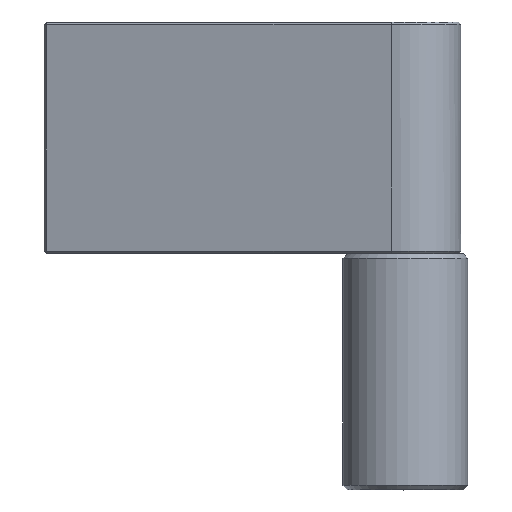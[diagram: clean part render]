
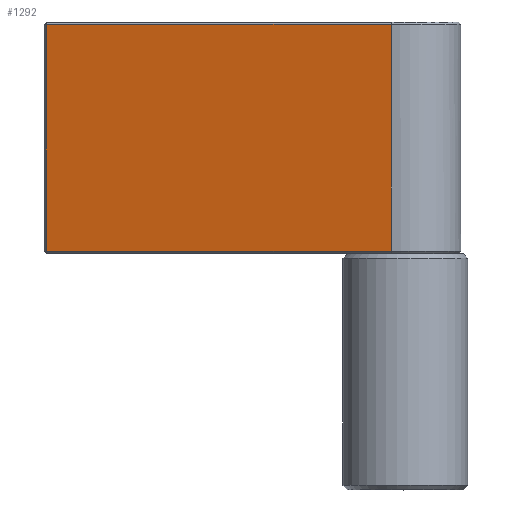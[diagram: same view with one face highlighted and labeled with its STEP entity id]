
A CAD part, top view. The second image highlights one B-rep face of the part: STEP entity #1292.
In plain terms, the highlighted planar face has unit normal (-0.253, 0, 0.967) as drawn and (-0.253, 0.967, 0) by its records, which use the part's own axes.
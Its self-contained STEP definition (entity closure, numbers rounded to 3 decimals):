
#27 = VERTEX_POINT ( 'NONE', #605 ) ;
#43 = DIRECTION ( 'NONE',  ( 0., 0., -1. ) ) ;
#44 = VECTOR ( 'NONE', #531, 1000. ) ;
#94 = LINE ( 'NONE', #608, #44 ) ;
#154 = CARTESIAN_POINT ( 'NONE',  ( -3.037, 11.609, 50. ) ) ;
#214 = VERTEX_POINT ( 'NONE', #838 ) ;
#283 = EDGE_CURVE ( 'NONE', #370, #1251, #1838, .T. ) ;
#370 = VERTEX_POINT ( 'NONE', #1420 ) ;
#444 = DIRECTION ( 'NONE',  ( -0.967, -0.253, 0. ) ) ;
#531 = DIRECTION ( 'NONE',  ( 0., 0., 1. ) ) ;
#535 = VECTOR ( 'NONE', #43, 1000. ) ;
#605 = CARTESIAN_POINT ( 'NONE',  ( -77.516, -7.873, 0.5 ) ) ;
#608 = CARTESIAN_POINT ( 'NONE',  ( -77.516, -7.873, 50. ) ) ;
#811 = DIRECTION ( 'NONE',  ( 0.967, 0.253, 0. ) ) ;
#838 = CARTESIAN_POINT ( 'NONE',  ( -77.516, -7.873, 49.5 ) ) ;
#915 = FACE_OUTER_BOUND ( 'NONE', #1124, .T. ) ;
#940 = EDGE_CURVE ( 'NONE', #27, #214, #94, .T. ) ;
#1033 = EDGE_CURVE ( 'NONE', #214, #370, #2064, .T. ) ;
#1124 = EDGE_LOOP ( 'NONE', ( #1680, #1790, #1821, #1886 ) ) ;
#1251 = VERTEX_POINT ( 'NONE', #1769 ) ;
#1292 = ADVANCED_FACE ( 'NONE', ( #915 ), #1978, .F. ) ;
#1420 = CARTESIAN_POINT ( 'NONE',  ( -3.037, 11.609, 49.5 ) ) ;
#1680 = ORIENTED_EDGE ( 'NONE', *, *, #940, .T. ) ;
#1769 = CARTESIAN_POINT ( 'NONE',  ( -3.037, 11.609, 0.5 ) ) ;
#1790 = ORIENTED_EDGE ( 'NONE', *, *, #1033, .T. ) ;
#1821 = ORIENTED_EDGE ( 'NONE', *, *, #283, .T. ) ;
#1838 = LINE ( 'NONE', #154, #535 ) ;
#1853 = CARTESIAN_POINT ( 'NONE',  ( -78., -8., 0.5 ) ) ;
#1871 = AXIS2_PLACEMENT_3D ( 'NONE', #1927, #1984, #1999 ) ;
#1886 = ORIENTED_EDGE ( 'NONE', *, *, #1962, .T. ) ;
#1927 = CARTESIAN_POINT ( 'NONE',  ( -78., -8., 50. ) ) ;
#1962 = EDGE_CURVE ( 'NONE', #1251, #27, #2031, .T. ) ;
#1978 = PLANE ( 'NONE',  #1871 ) ;
#1980 = VECTOR ( 'NONE', #811, 1000. ) ;
#1984 = DIRECTION ( 'NONE',  ( 0.253, -0.967, 0. ) ) ;
#1988 = VECTOR ( 'NONE', #444, 1000. ) ;
#1993 = CARTESIAN_POINT ( 'NONE',  ( -3.037, 11.609, 49.5 ) ) ;
#1999 = DIRECTION ( 'NONE',  ( 0.967, 0.253, 0. ) ) ;
#2031 = LINE ( 'NONE', #1853, #1988 ) ;
#2064 = LINE ( 'NONE', #1993, #1980 ) ;
